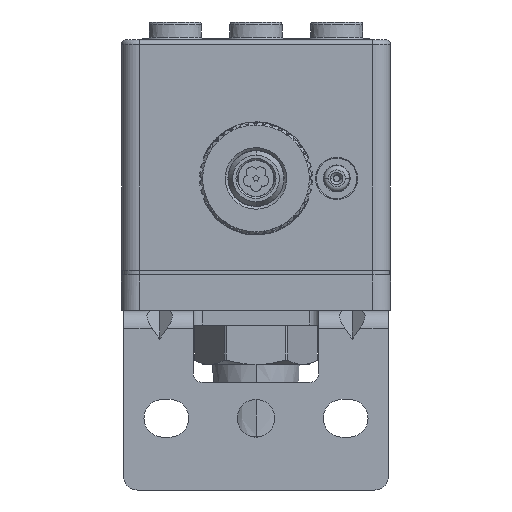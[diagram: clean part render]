
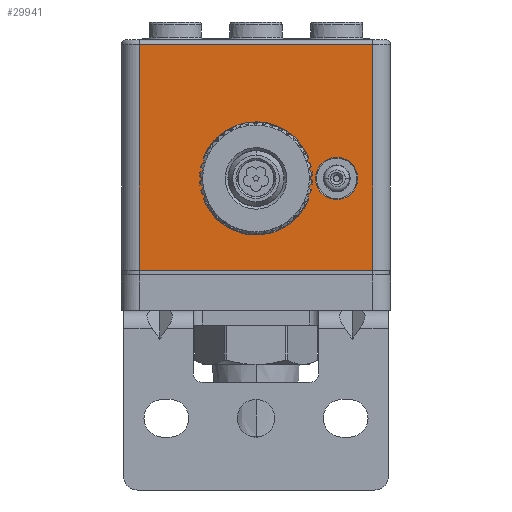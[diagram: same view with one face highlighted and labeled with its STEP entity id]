
A CAD part, front view. The second image highlights one B-rep face of the part: STEP entity #29941.
In plain terms, the highlighted planar face has unit normal (0, -1, 0).
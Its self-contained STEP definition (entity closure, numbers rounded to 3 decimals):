
#2174=DIRECTION('',(1.,0.,0.));
#2175=VECTOR('',#2174,26.);
#2176=CARTESIAN_POINT('',(-13.,-15.,4.5));
#2177=LINE('',#2176,#2175);
#2178=DIRECTION('',(0.,0.,-1.));
#2179=VECTOR('',#2178,25.2);
#2180=CARTESIAN_POINT('',(-13.,-15.,29.7));
#2181=LINE('',#2180,#2179);
#2182=DIRECTION('',(1.,0.,0.));
#2183=VECTOR('',#2182,26.);
#2184=CARTESIAN_POINT('',(-13.,-15.,29.7));
#2185=LINE('',#2184,#2183);
#2186=DIRECTION('',(0.,0.,-1.));
#2187=VECTOR('',#2186,25.2);
#2188=CARTESIAN_POINT('',(13.,-15.,29.7));
#2189=LINE('',#2188,#2187);
#2190=CARTESIAN_POINT('',(0.,-15.,14.75));
#2191=DIRECTION('',(0.,-1.,0.));
#2192=DIRECTION('',(-0.898,0.,-0.44));
#2193=AXIS2_PLACEMENT_3D('',#2190,#2191,#2192);
#2195=DIRECTION('',(-0.017,0.,-1.));
#2196=VECTOR('',#2195,2.35);
#2197=CARTESIAN_POINT('',(5.8,-15.,14.75));
#2198=LINE('',#2197,#2196);
#2199=DIRECTION('',(0.017,0.,-1.));
#2200=VECTOR('',#2199,2.35);
#2201=CARTESIAN_POINT('',(5.759,-15.,17.1));
#2202=LINE('',#2201,#2200);
#2203=CARTESIAN_POINT('',(0.,-15.,14.75));
#2204=DIRECTION('',(0.,-1.,0.));
#2205=DIRECTION('',(0.898,0.,0.44));
#2206=AXIS2_PLACEMENT_3D('',#2203,#2204,#2205);
#2208=DIRECTION('',(0.017,0.,1.));
#2209=VECTOR('',#2208,2.35);
#2210=CARTESIAN_POINT('',(-5.8,-15.,14.75));
#2211=LINE('',#2210,#2209);
#2212=DIRECTION('',(-0.017,0.,1.));
#2213=VECTOR('',#2212,2.35);
#2214=CARTESIAN_POINT('',(-5.759,-15.,12.4));
#2215=LINE('',#2214,#2213);
#2216=CARTESIAN_POINT('',(9.,-15.,14.75));
#2217=DIRECTION('',(0.,1.,0.));
#2218=DIRECTION('',(-1.,0.,0.));
#2219=AXIS2_PLACEMENT_3D('',#2216,#2217,#2218);
#2221=CARTESIAN_POINT('',(9.,-15.,14.75));
#2222=DIRECTION('',(0.,1.,0.));
#2223=DIRECTION('',(1.,0.,0.));
#2224=AXIS2_PLACEMENT_3D('',#2221,#2222,#2223);
#8308=CARTESIAN_POINT('',(-4.759,-15.,17.083));
#8309=DIRECTION('',(0.,1.,0.));
#8310=DIRECTION('',(-1.,0.,0.017));
#8311=AXIS2_PLACEMENT_3D('',#8308,#8309,#8310);
#8754=CARTESIAN_POINT('',(4.759,-15.,17.083));
#8755=DIRECTION('',(0.,1.,0.));
#8756=DIRECTION('',(0.898,0.,0.44));
#8757=AXIS2_PLACEMENT_3D('',#8754,#8755,#8756);
#8810=CARTESIAN_POINT('',(4.759,-15.,12.417));
#8811=DIRECTION('',(0.,1.,0.));
#8812=DIRECTION('',(1.,0.,-0.017));
#8813=AXIS2_PLACEMENT_3D('',#8810,#8811,#8812);
#8884=CARTESIAN_POINT('',(-4.759,-15.,12.417));
#8885=DIRECTION('',(0.,1.,0.));
#8886=DIRECTION('',(-0.898,0.,-0.44));
#8887=AXIS2_PLACEMENT_3D('',#8884,#8885,#8886);
#24166=CARTESIAN_POINT('',(-13.,-15.,4.5));
#24167=CARTESIAN_POINT('',(13.,-15.,4.5));
#24168=VERTEX_POINT('',#24166);
#24169=VERTEX_POINT('',#24167);
#24190=CARTESIAN_POINT('',(13.,-15.,29.7));
#24191=VERTEX_POINT('',#24190);
#24196=CARTESIAN_POINT('',(-13.,-15.,29.7));
#24197=VERTEX_POINT('',#24196);
#24298=CARTESIAN_POINT('',(6.646,-15.,14.75));
#24299=CARTESIAN_POINT('',(11.354,-15.,14.75));
#24300=VERTEX_POINT('',#24298);
#24301=VERTEX_POINT('',#24299);
#24492=CARTESIAN_POINT('',(5.8,-15.,14.75));
#24493=VERTEX_POINT('',#24492);
#24503=CARTESIAN_POINT('',(5.759,-15.,17.1));
#24504=VERTEX_POINT('',#24503);
#24505=CARTESIAN_POINT('',(5.759,-15.,12.4));
#24506=VERTEX_POINT('',#24505);
#24507=CARTESIAN_POINT('',(5.657,-15.,17.523));
#24508=VERTEX_POINT('',#24507);
#24509=CARTESIAN_POINT('',(5.657,-15.,11.977));
#24510=VERTEX_POINT('',#24509);
#24518=CARTESIAN_POINT('',(-5.657,-15.,17.523));
#24519=VERTEX_POINT('',#24518);
#24520=CARTESIAN_POINT('',(-5.657,-15.,11.977));
#24521=VERTEX_POINT('',#24520);
#24532=CARTESIAN_POINT('',(-5.759,-15.,12.4));
#24533=CARTESIAN_POINT('',(-5.8,-15.,14.75));
#24534=VERTEX_POINT('',#24532);
#24535=VERTEX_POINT('',#24533);
#24536=CARTESIAN_POINT('',(-5.759,-15.,17.1));
#24537=VERTEX_POINT('',#24536);
#29900=CARTESIAN_POINT('',(-15.,-15.,2.9));
#29901=DIRECTION('',(0.,-1.,0.));
#29902=DIRECTION('',(1.,0.,0.));
#29903=AXIS2_PLACEMENT_3D('',#29900,#29901,#29902);
#29904=PLANE('',#29903);
#29905=ORIENTED_EDGE('',*,*,#28593,.F.);
#29907=ORIENTED_EDGE('',*,*,#29906,.F.);
#29909=ORIENTED_EDGE('',*,*,#29908,.T.);
#29910=ORIENTED_EDGE('',*,*,#29892,.T.);
#29911=EDGE_LOOP('',(#29905,#29907,#29909,#29910));
#29912=FACE_OUTER_BOUND('',#29911,.F.);
#29914=ORIENTED_EDGE('',*,*,#29913,.T.);
#29916=ORIENTED_EDGE('',*,*,#29915,.F.);
#29918=ORIENTED_EDGE('',*,*,#29917,.F.);
#29920=ORIENTED_EDGE('',*,*,#29919,.F.);
#29922=ORIENTED_EDGE('',*,*,#29921,.F.);
#29924=ORIENTED_EDGE('',*,*,#29923,.T.);
#29926=ORIENTED_EDGE('',*,*,#29925,.F.);
#29928=ORIENTED_EDGE('',*,*,#29927,.F.);
#29930=ORIENTED_EDGE('',*,*,#29929,.F.);
#29932=ORIENTED_EDGE('',*,*,#29931,.F.);
#29933=EDGE_LOOP('',(#29914,#29916,#29918,#29920,#29922,#29924,#29926,#29928,
#29930,#29932));
#29934=FACE_BOUND('',#29933,.F.);
#29936=ORIENTED_EDGE('',*,*,#29935,.F.);
#29938=ORIENTED_EDGE('',*,*,#29937,.F.);
#29939=EDGE_LOOP('',(#29936,#29938));
#29940=FACE_BOUND('',#29939,.F.);
#29941=ADVANCED_FACE('',(#29912,#29934,#29940),#29904,.T.);
#2194=CIRCLE('',#2193,6.3);
#2207=CIRCLE('',#2206,6.3);
#2220=CIRCLE('',#2219,2.354);
#2225=CIRCLE('',#2224,2.354);
#8312=CIRCLE('',#8311,1.);
#8758=CIRCLE('',#8757,1.);
#8814=CIRCLE('',#8813,1.);
#8888=CIRCLE('',#8887,1.);
#28593=EDGE_CURVE('',#24168,#24169,#2177,.T.);
#29892=EDGE_CURVE('',#24191,#24169,#2189,.T.);
#29906=EDGE_CURVE('',#24197,#24168,#2181,.T.);
#29908=EDGE_CURVE('',#24197,#24191,#2185,.T.);
#29913=EDGE_CURVE('',#24521,#24510,#2194,.T.);
#29915=EDGE_CURVE('',#24506,#24510,#8814,.T.);
#29917=EDGE_CURVE('',#24493,#24506,#2198,.T.);
#29919=EDGE_CURVE('',#24504,#24493,#2202,.T.);
#29921=EDGE_CURVE('',#24508,#24504,#8758,.T.);
#29923=EDGE_CURVE('',#24508,#24519,#2207,.T.);
#29925=EDGE_CURVE('',#24537,#24519,#8312,.T.);
#29927=EDGE_CURVE('',#24535,#24537,#2211,.T.);
#29929=EDGE_CURVE('',#24534,#24535,#2215,.T.);
#29931=EDGE_CURVE('',#24521,#24534,#8888,.T.);
#29935=EDGE_CURVE('',#24300,#24301,#2220,.T.);
#29937=EDGE_CURVE('',#24301,#24300,#2225,.T.);
